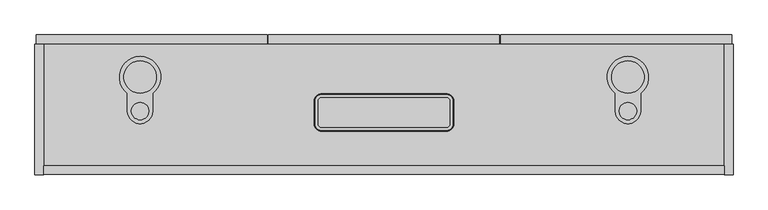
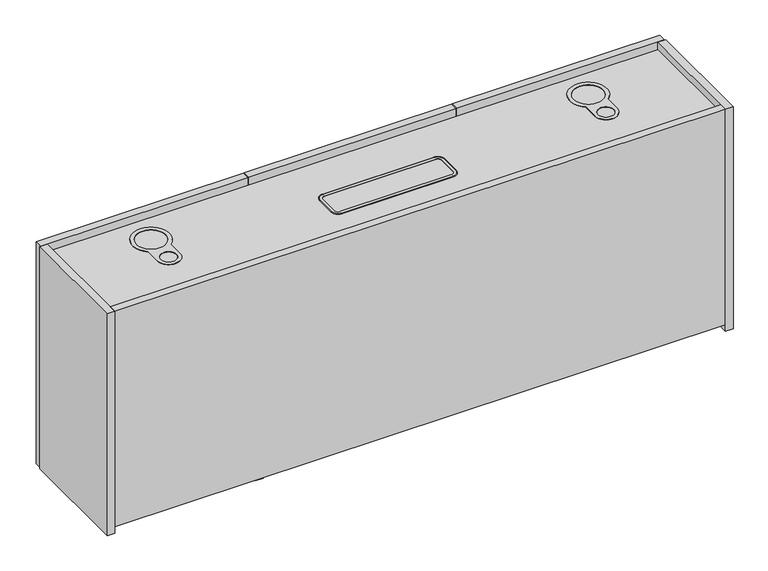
"""IFC4 building model written with IfcOpenShell, lengths in millimetres: furniture geometry, Geiger_GeigerOneCasegoods_UtilityCabinetForUseWithCredenzaDeskAccepts2Legs : Vertical Veneer 60Wx 12Dx 22.5H."""

from ifc_helpers import new_model, si_unit, point, frame, origin, place, context, project, spatial, polyline, circle_curve, ellipse_curve, trimmed, outline, extrude, faceted_brep, source, transform, mapped, element, save
from ifc_brep_helpers import plane_surface, cylinder_surface, revolved_surface, advanced_brep


def furniture_dcbf375a(model_context):
    return source(origin(), model_context, "Body", "SolidModel", [
        faceted_brep([(1505.0, 19.5, 584.2), (1505.0, 0.5, 584.2), (1505.0, 0.5, 29.0), (1505.0, 19.5, 29.0), (1505.0, 284.3, 156.0), (1505.0, 265.3, 156.0), (1505.0, 265.3, 29.0), (1505.0, 284.3, 29.0), (19.0, 19.5, 584.2), (19.0, 19.5, 29.0), (19.0, 0.5, 29.0), (19.0, 0.5, 584.2), (19.0, 284.3, 156.0), (19.0, 284.3, 29.0), (19.0, 265.3, 29.0), (19.0, 265.3, 156.0), (390.75, 19.5, 29.0), (390.75, 19.5, 546.2), (371.75, 19.5, 546.2), (371.75, 19.5, 29.0), (390.75, 284.3, 29.0), (390.75, 284.3, 156.0), (371.75, 284.3, 156.0), (371.75, 284.3, 29.0), (371.75, 265.3, 29.0), (390.75, 265.3, 29.0), (371.75, 265.3, 156.0), (390.75, 265.3, 156.0), (371.75, 284.8, 12.7), (371.75, 19.5, 12.7), (371.75, 284.8, 546.2), (390.75, 284.8, 12.7), (390.75, 284.8, 546.2), (390.75, 19.5, 12.7)], [[[0, 1, 2, 3]], [[4, 5, 6, 7]], [[8, 9, 10, 11]], [[12, 13, 14, 15]], [[3, 16, 17, 18, 19, 9, 8, 0]], [[2, 10, 9, 19, 16, 3]], [[1, 11, 10, 2]], [[0, 8, 11, 1]], [[7, 20, 21, 4]], [[12, 22, 23, 13]], [[13, 23, 24, 14]], [[6, 25, 20, 7]], [[14, 24, 26, 15]], [[5, 27, 25, 6]], [[4, 21, 27, 5]], [[15, 26, 22, 12]], [[28, 29, 19, 18, 30], [22, 26, 24, 23]], [[31, 32, 17, 16, 33], [20, 25, 27, 21]], [[30, 32, 31, 28]], [[18, 17, 32, 30]], [[33, 16, 19, 29]], [[28, 31, 33, 29]]]),
        extrude(outline(polyline([(1505.0, 19.5), (19.0, 19.5), (19.0, 284.8), (1505.0, 284.8), (1505.0, 19.5)])), frame((0.0, 0.0, 546.2), z_axis=(0.0, 0.0, 1.0), x_axis=(1.0, 0.0, 0.0)), (0.0, 0.0, 1.0), 19.0),
        extrude(outline(polyline([(506.8, 304.8), (506.8, 285.8), (3.0, 285.8), (3.0, 304.8), (506.8, 304.8)])), frame((0.0, 0.0, 12.7), z_axis=(0.0, 0.0, 1.0), x_axis=(1.0, 0.0, 0.0)), (0.0, 0.0, 1.0), 571.5),
        extrude(outline(polyline([(1521.0, 304.8), (1521.0, 285.8), (1016.6, 285.8), (1016.6, 304.8), (1521.0, 304.8)])), frame((0.0, 0.0, 12.7), z_axis=(0.0, 0.0, 1.0), x_axis=(1.0, 0.0, 0.0)), (0.0, 0.0, 1.0), 571.5),
        extrude(outline(polyline([(1013.6, 304.8), (1013.6, 285.8), (509.8, 285.8), (509.8, 304.8), (1013.6, 304.8)])), frame((0.0, 0.0, 12.7), z_axis=(0.0, 0.0, 1.0), x_axis=(1.0, 0.0, 0.0)), (0.0, 0.0, 1.0), 571.5),
        extrude(outline(polyline([(19.0, 284.8), (19.0, 0.0), (0.0, 0.0), (0.0, 284.8), (19.0, 284.8)])), frame((0.0, 0.0, 12.7), z_axis=(0.0, 0.0, 1.0), x_axis=(1.0, 0.0, 0.0)), (0.0, 0.0, 1.0), 571.5),
        extrude(outline(polyline([(1524.0, 284.8), (1524.0, 0.0), (1505.0, 0.0), (1505.0, 284.8), (1524.0, 284.8)])), frame((0.0, 0.0, 12.7), z_axis=(0.0, 0.0, 1.0), x_axis=(1.0, 0.0, 0.0)), (0.0, 0.0, 1.0), 571.5),
        advanced_brep(
        [(610.7203563, 110.825, 566.7), (609.4922964, 110.825, 565.2), (625.9, 94.4172964, 565.2), (625.9, 95.6453563, 566.7), (610.7203563, 160.025, 566.7), (609.4922964, 160.025, 565.2), (625.9, 175.2046437, 566.7), (625.9, 176.4327036, 565.2), (898.1, 175.2046437, 566.7), (898.1, 176.4327036, 565.2), (913.2796437, 160.025, 566.7), (914.5077036, 160.025, 565.2), (913.2796437, 110.825, 566.7), (914.5077036, 110.825, 565.2), (898.1, 95.6453563, 566.7), (898.1, 94.4172964, 565.2), (625.9, 102.925, 566.7), (618.0, 110.825, 566.7), (618.0, 160.025, 566.7), (625.9, 167.925, 566.7), (898.1, 167.925, 566.7), (906.0, 160.025, 566.7), (906.0, 110.825, 566.7), (898.1, 102.925, 566.7), (625.9, 102.925, 566.001635), (618.0, 110.825, 566.001635), (618.0, 160.025, 566.001635), (625.9, 167.925, 566.001635), (898.1, 167.925, 566.001635), (906.0, 160.025, 566.001635), (906.0, 110.825, 566.001635), (898.1, 102.925, 566.001635)],
        [
            (0, 1, circle_curve(frame((610.7203563, 110.825, 565.4472896), z_axis=(0.0, -1.0, 0.0), x_axis=(1.0, 0.0, 0.0)), 1.2527104)),
            (1, 2, circle_curve(frame((625.9, 110.825, 565.2), z_axis=(0.0, 0.0, 1.0), x_axis=(0.0, -1.0, 0.0)), 16.4077036)),
            (2, 3, circle_curve(frame((625.9, 95.6453563, 565.4472896), z_axis=(-1.0, 0.0, 0.0), x_axis=(0.0, 1.0, 0.0)), 1.2527104)),
            (3, 0, circle_curve(frame((625.9, 110.825, 566.7), z_axis=(0.0, 0.0, -1.0), x_axis=(0.0, -1.0, 0.0)), 15.1796437)),
            (0, 4),
            (4, 5, circle_curve(frame((610.7203563, 160.025, 565.4472896), z_axis=(0.0, -1.0, 0.0), x_axis=(1.0, 0.0, 0.0)), 1.2527104)),
            (5, 1),
            (4, 6, circle_curve(frame((625.9, 160.025, 566.7), z_axis=(0.0, 0.0, -1.0), x_axis=(-1.0, 0.0, 0.0)), 15.1796437)),
            (6, 7, circle_curve(frame((625.9, 175.2046437, 565.4472896), z_axis=(-1.0, 0.0, 0.0), x_axis=(0.0, -1.0, 0.0)), 1.2527104)),
            (7, 5, circle_curve(frame((625.9, 160.025, 565.2), z_axis=(0.0, 0.0, 1.0), x_axis=(-1.0, 0.0, 0.0)), 16.4077036)),
            (6, 8),
            (8, 9, circle_curve(frame((898.1, 175.2046437, 565.4472896), z_axis=(-1.0, 0.0, 0.0), x_axis=(0.0, -1.0, 0.0)), 1.2527104)),
            (9, 7),
            (8, 10, circle_curve(frame((898.1, 160.025, 566.7), z_axis=(0.0, 0.0, -1.0), x_axis=(0.0, 1.0, 0.0)), 15.1796437)),
            (10, 11, circle_curve(frame((913.2796437, 160.025, 565.4472896), z_axis=(0.0, 1.0, 0.0), x_axis=(-1.0, 0.0, 0.0)), 1.2527104)),
            (11, 9, circle_curve(frame((898.1, 160.025, 565.2), z_axis=(0.0, 0.0, 1.0), x_axis=(0.0, 1.0, 0.0)), 16.4077036)),
            (10, 12),
            (12, 13, circle_curve(frame((913.2796437, 110.825, 565.4472896), z_axis=(0.0, 1.0, 0.0), x_axis=(-1.0, 0.0, 0.0)), 1.2527104)),
            (13, 11),
            (12, 14, circle_curve(frame((898.1, 110.825, 566.7), z_axis=(0.0, 0.0, -1.0), x_axis=(1.0, 0.0, 0.0)), 15.1796437)),
            (14, 15, circle_curve(frame((898.1, 95.6453563, 565.4472896), z_axis=(1.0, 0.0, 0.0), x_axis=(0.0, 1.0, 0.0)), 1.2527104)),
            (15, 13, circle_curve(frame((898.1, 110.825, 565.2), z_axis=(0.0, 0.0, 1.0), x_axis=(1.0, 0.0, 0.0)), 16.4077036)),
            (2, 15),
            (14, 3),
            (16, 17, circle_curve(frame((625.9, 110.825, 566.7), z_axis=(0.0, 0.0, -1.0), x_axis=(0.0, -1.0, 0.0)), 7.9)),
            (17, 18),
            (18, 19, circle_curve(frame((625.9, 160.025, 566.7), z_axis=(0.0, 0.0, -1.0), x_axis=(-1.0, 0.0, 0.0)), 7.9)),
            (19, 20),
            (20, 21, circle_curve(frame((898.1, 160.025, 566.7), z_axis=(0.0, 0.0, -1.0), x_axis=(0.0, 1.0, 0.0)), 7.9)),
            (21, 22),
            (22, 23, circle_curve(frame((898.1, 110.825, 566.7), z_axis=(0.0, 0.0, -1.0), x_axis=(1.0, 0.0, 0.0)), 7.9)),
            (23, 16),
            (16, 24),
            (24, 25, circle_curve(frame((625.9, 110.825, 566.001635), z_axis=(0.0, 0.0, -1.0), x_axis=(0.0, -1.0, 0.0)), 7.9)),
            (25, 17),
            (25, 26),
            (26, 18),
            (26, 27, circle_curve(frame((625.9, 160.025, 566.001635), z_axis=(0.0, 0.0, -1.0), x_axis=(-1.0, 0.0, 0.0)), 7.9)),
            (27, 19),
            (27, 28),
            (28, 20),
            (28, 29, circle_curve(frame((898.1, 160.025, 566.001635), z_axis=(0.0, 0.0, -1.0), x_axis=(0.0, 1.0, 0.0)), 7.9)),
            (29, 21),
            (29, 30),
            (30, 22),
            (30, 31, circle_curve(frame((898.1, 110.825, 566.001635), z_axis=(0.0, 0.0, -1.0), x_axis=(1.0, 0.0, 0.0)), 7.9)),
            (31, 23),
            (31, 24),
        ],
        [
            revolved_surface(trimmed(ellipse_curve(frame((625.9, 95.6453563, 565.4472896), z_axis=(-1.0, 0.0, 0.0), x_axis=(0.0, 1.0, 0.0)), 1.2527104, 1.2527104), [point((625.9, 94.4172964, 565.2))], [point((625.9, 95.6453563, 566.7))], True, "CARTESIAN"), (625.9, 110.825, 565.2), (0.0, 0.0, 1.0)),
            cylinder_surface(frame((610.7203563, 110.825, 565.4472896), z_axis=(0.0, -1.0, 0.0), x_axis=(1.0, 0.0, 0.0)), 1.2527104),
            revolved_surface(trimmed(ellipse_curve(frame((610.7203563, 160.025, 565.4472896), z_axis=(0.0, 1.0, 0.0), x_axis=(1.0, 0.0, 0.0)), 1.2527104, 1.2527104), [point((609.4922964, 160.025, 565.2))], [point((610.7203563, 160.025, 566.7))], True, "CARTESIAN"), (625.9, 160.025, 565.2), (0.0, 0.0, 1.0)),
            cylinder_surface(frame((625.9, 175.2046437, 565.4472896), z_axis=(-1.0, 0.0, 0.0), x_axis=(0.0, -1.0, 0.0)), 1.2527104),
            revolved_surface(trimmed(ellipse_curve(frame((898.1, 175.2046437, 565.4472896), z_axis=(1.0, 0.0, 0.0), x_axis=(0.0, -1.0, 0.0)), 1.2527104, 1.2527104), [point((898.1, 176.4327036, 565.2))], [point((898.1, 175.2046437, 566.7))], True, "CARTESIAN"), (898.1, 160.025, 565.2), (0.0, 0.0, 1.0)),
            cylinder_surface(frame((913.2796437, 160.025, 565.4472896), z_axis=(0.0, 1.0, 0.0), x_axis=(-1.0, 0.0, 0.0)), 1.2527104),
            revolved_surface(trimmed(ellipse_curve(frame((913.2796437, 110.825, 565.4472896), z_axis=(0.0, -1.0, 0.0), x_axis=(-1.0, 0.0, 0.0)), 1.2527104, 1.2527104), [point((914.5077036, 110.825, 565.2))], [point((913.2796437, 110.825, 566.7))], True, "CARTESIAN"), (898.1, 110.825, 565.2), (0.0, 0.0, 1.0)),
            cylinder_surface(frame((898.1, 95.6453563, 565.4472896), z_axis=(1.0, 0.0, 0.0), x_axis=(0.0, 1.0, 0.0)), 1.2527104),
            plane_surface(frame((898.1, 95.6453563, 566.7), z_axis=(0.0, 0.0, 1.0), x_axis=(-1.0, 0.0, 0.0))),
            revolved_surface(polyline([(625.9, 102.925, 566.7), (625.9, 102.925, 566.001635)]), (625.9, 110.825, 565.2), (0.0, 0.0, 1.0)),
            plane_surface(frame((618.0, 110.825, 566.7), z_axis=(1.0, 0.0, 0.0), x_axis=(0.0, 1.0, 0.0))),
            revolved_surface(polyline([(618.0, 160.025, 566.7), (618.0, 160.025, 566.001635)]), (625.9, 160.025, 565.2), (0.0, 0.0, 1.0)),
            plane_surface(frame((625.9, 167.925, 566.7), z_axis=(0.0, -1.0, 0.0), x_axis=(1.0, 0.0, 0.0))),
            revolved_surface(polyline([(898.1, 167.925, 566.7), (898.1, 167.925, 566.001635)]), (898.1, 160.025, 565.2), (0.0, 0.0, 1.0)),
            plane_surface(frame((906.0, 160.025, 566.7), z_axis=(-1.0, 0.0, 0.0), x_axis=(0.0, -1.0, 0.0))),
            revolved_surface(polyline([(906.0, 110.825, 566.7), (906.0, 110.825, 566.001635)]), (898.1, 110.825, 565.2), (0.0, 0.0, 1.0)),
            plane_surface(frame((898.1, 102.925, 566.7), z_axis=(0.0, 1.0, 0.0), x_axis=(-1.0, 0.0, 0.0))),
            plane_surface(frame((898.1, 102.925, 565.2), z_axis=(0.0, 0.0, -1.0), x_axis=(-1.0, 0.0, 0.0))),
            plane_surface(frame((625.9, 102.925, 566.001635), z_axis=(0.0, 0.0, 1.0), x_axis=(-1.0, 0.0, 0.0))),
        ],
        [
            (0, [[1, 2, 3, 4]]),
            (1, [[5, 6, 7, -1]]),
            (2, [[8, 9, 10, -6]]),
            (3, [[11, 12, 13, -9]]),
            (4, [[14, 15, 16, -12]]),
            (5, [[17, 18, 19, -15]]),
            (6, [[20, 21, 22, -18]]),
            (7, [[23, -21, 24, -3]]),
            (8, [[-24, -20, -17, -14, -11, -8, -5, -4], [25, 26, 27, 28, 29, 30, 31, 32]]),
            (9, [[33, 34, 35, -25]]),
            (10, [[-35, 36, 37, -26]]),
            (11, [[-37, 38, 39, -27]]),
            (12, [[-39, 40, 41, -28]]),
            (13, [[-41, 42, 43, -29]]),
            (14, [[-43, 44, 45, -30]]),
            (15, [[-45, 46, 47, -31]]),
            (16, [[-47, 48, -33, -32]]),
            (17, [[-7, -10, -13, -16, -19, -22, -23, -2]]),
            (18, [[-48, -46, -44, -42, -40, -38, -36, -34]]),
        ],
    ),
        advanced_brep(
        [(257.1, 177.1090661, 565.2), (257.1, 138.6393843, 565.2), (202.1, 138.6393843, 565.2), (202.1, 177.1090661, 565.2), (257.1, 177.1090661, 566.8), (202.1, 177.1090661, 566.8), (202.1, 138.6393843, 566.8), (257.1, 138.6393843, 566.8), (229.6, 157.5707393, 566.8), (229.6, 119.7080294, 566.8), (229.6, 248.2790899, 566.8), (229.6, 177.4196387, 566.8), (229.6, 119.7080294, 566.001635), (229.6, 157.5707393, 566.001635), (229.6, 177.4196387, 566.001635), (229.6, 248.2790899, 566.001635)],
        [
            (0, 1),
            (1, 2, circle_curve(frame((229.6, 138.6393843, 565.2), z_axis=(0.0, 0.0, -1.0), x_axis=(0.0, -1.0, 0.0)), 27.5)),
            (2, 3),
            (3, 0, circle_curve(frame((229.6, 212.8493643, 565.2), z_axis=(0.0, 0.0, -1.0), x_axis=(0.0, -1.0, 0.0)), 45.095664)),
            (4, 5, circle_curve(frame((229.6, 212.8493643, 566.8), z_axis=(0.0, 0.0, 1.0), x_axis=(0.0, -1.0, 0.0)), 45.095664)),
            (5, 6),
            (6, 7, circle_curve(frame((229.6, 138.6393843, 566.8), z_axis=(0.0, 0.0, 1.0), x_axis=(0.0, -1.0, 0.0)), 27.5)),
            (7, 4),
            (8, 9, circle_curve(frame((229.6, 138.6393843, 566.8), z_axis=(0.0, 0.0, -1.0), x_axis=(0.0, -1.0, 0.0)), 18.931355)),
            (9, 8, circle_curve(frame((229.6, 138.6393843, 566.8), z_axis=(0.0, 0.0, -1.0), x_axis=(0.0, -1.0, 0.0)), 18.931355)),
            (10, 11, circle_curve(frame((229.6, 212.8493643, 566.8), z_axis=(0.0, 0.0, -1.0), x_axis=(0.0, -1.0, 0.0)), 35.4297256)),
            (11, 10, circle_curve(frame((229.6, 212.8493643, 566.8), z_axis=(0.0, 0.0, -1.0), x_axis=(0.0, -1.0, 0.0)), 35.4297256)),
            (0, 4),
            (7, 1),
            (6, 2),
            (5, 3),
            (9, 12),
            (12, 13, circle_curve(frame((229.6, 138.6393843, 566.001635), z_axis=(0.0, 0.0, -1.0), x_axis=(0.0, -1.0, 0.0)), 18.931355)),
            (13, 8),
            (13, 12, circle_curve(frame((229.6, 138.6393843, 566.001635), z_axis=(0.0, 0.0, -1.0), x_axis=(0.0, -1.0, 0.0)), 18.931355)),
            (11, 14),
            (14, 15, circle_curve(frame((229.6, 212.8493643, 566.001635), z_axis=(0.0, 0.0, -1.0), x_axis=(0.0, -1.0, 0.0)), 35.4297256)),
            (15, 10),
            (15, 14, circle_curve(frame((229.6, 212.8493643, 566.001635), z_axis=(0.0, 0.0, -1.0), x_axis=(0.0, -1.0, 0.0)), 35.4297256)),
        ],
        [
            plane_surface(frame((229.6, 265.3, 565.2), z_axis=(0.0, 0.0, -1.0), x_axis=(-1.0, 0.0, 0.0))),
            plane_surface(frame((229.6, 265.3, 566.8), z_axis=(0.0, 0.0, 1.0), x_axis=(-1.0, 0.0, 0.0))),
            plane_surface(frame((257.1, 138.6393843, 565.2), z_axis=(1.0, 0.0, 0.0), x_axis=(0.0, 0.0, 1.0))),
            cylinder_surface(frame((229.6, 138.6393843, 565.2), z_axis=(0.0, 0.0, -1.0), x_axis=(0.0, -1.0, 0.0)), 27.5),
            plane_surface(frame((202.1, 177.1090661, 565.2), z_axis=(-1.0, 0.0, 0.0), x_axis=(0.0, 0.0, 1.0))),
            cylinder_surface(frame((229.6, 212.8493643, 565.2), z_axis=(0.0, 0.0, -1.0), x_axis=(0.0, -1.0, 0.0)), 45.095664),
            revolved_surface(polyline([(229.6, 119.70802929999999, 566.8), (229.6, 119.70802929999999, 566.001635)]), (229.6, 138.6393843, 565.2), (0.0, 0.0, 1.0)),
            revolved_surface(polyline([(229.6, 177.4196387, 566.8), (229.6, 177.4196387, 566.001635)]), (229.6, 212.8493643, 565.2), (0.0, 0.0, 1.0)),
            plane_surface(frame((210.668645, 138.6393843, 566.001635), z_axis=(0.0, 0.0, 1.0), x_axis=(0.0, 1.0, 0.0))),
        ],
        [
            (0, [[1, 2, 3, 4]]),
            (1, [[5, 6, 7, 8], [9, 10], [11, 12]]),
            (2, [[13, -8, 14, -1]]),
            (3, [[-14, -7, 15, -2]]),
            (4, [[-15, -6, 16, -3]]),
            (5, [[-16, -5, -13, -4]]),
            (6, [[17, 18, 19, -10]]),
            (6, [[-19, 20, -17, -9]]),
            (7, [[21, 22, 23, -12]]),
            (7, [[-23, 24, -21, -11]]),
            (8, [[-20, -18]]),
            (8, [[-24, -22]]),
        ],
    ),
        advanced_brep(
        [(1266.9, 177.1090661, 565.2), (1321.9, 177.1090661, 565.2), (1321.9, 138.6393843, 565.2), (1266.9, 138.6393843, 565.2), (1266.9, 177.1090661, 566.8), (1266.9, 138.6393843, 566.8), (1321.9, 138.6393843, 566.8), (1321.9, 177.1090661, 566.8), (1294.4, 119.7080294, 566.8), (1294.4, 157.5707393, 566.8), (1294.4, 177.4196387, 566.8), (1294.4, 248.2790899, 566.8), (1294.4, 119.7080294, 566.1909845), (1294.4, 157.5707393, 566.1909845), (1294.4, 177.4196387, 566.1909845), (1294.4, 248.2790899, 566.1909845)],
        [
            (0, 1, circle_curve(frame((1294.4, 212.8493643, 565.2), z_axis=(0.0, 0.0, -1.0), x_axis=(0.0, 1.0, 0.0)), 45.095664)),
            (1, 2),
            (2, 3, circle_curve(frame((1294.4, 138.6393843, 565.2), z_axis=(0.0, 0.0, -1.0), x_axis=(0.0, 1.0, 0.0)), 27.5)),
            (3, 0),
            (4, 5),
            (5, 6, circle_curve(frame((1294.4, 138.6393843, 566.8), z_axis=(0.0, 0.0, 1.0), x_axis=(0.0, 1.0, 0.0)), 27.5)),
            (6, 7),
            (7, 4, circle_curve(frame((1294.4, 212.8493643, 566.8), z_axis=(0.0, 0.0, 1.0), x_axis=(0.0, 1.0, 0.0)), 45.095664)),
            (8, 9, circle_curve(frame((1294.4, 138.6393843, 566.8), z_axis=(0.0, 0.0, -1.0), x_axis=(0.0, 1.0, 0.0)), 18.931355)),
            (9, 8, circle_curve(frame((1294.4, 138.6393843, 566.8), z_axis=(0.0, 0.0, -1.0), x_axis=(0.0, 1.0, 0.0)), 18.931355)),
            (10, 11, circle_curve(frame((1294.4, 212.8493643, 566.8), z_axis=(0.0, 0.0, -1.0), x_axis=(0.0, 1.0, 0.0)), 35.4297256)),
            (11, 10, circle_curve(frame((1294.4, 212.8493643, 566.8), z_axis=(0.0, 0.0, -1.0), x_axis=(0.0, 1.0, 0.0)), 35.4297256)),
            (3, 5),
            (4, 0),
            (2, 6),
            (1, 7),
            (8, 12),
            (12, 13, circle_curve(frame((1294.4, 138.6393843, 566.1909845), z_axis=(0.0, 0.0, -1.0), x_axis=(0.0, 1.0, 0.0)), 18.931355)),
            (13, 9),
            (13, 12, circle_curve(frame((1294.4, 138.6393843, 566.1909845), z_axis=(0.0, 0.0, -1.0), x_axis=(0.0, 1.0, 0.0)), 18.931355)),
            (10, 14),
            (14, 15, circle_curve(frame((1294.4, 212.8493643, 566.1909845), z_axis=(0.0, 0.0, -1.0), x_axis=(0.0, 1.0, 0.0)), 35.4297256)),
            (15, 11),
            (15, 14, circle_curve(frame((1294.4, 212.8493643, 566.1909845), z_axis=(0.0, 0.0, -1.0), x_axis=(0.0, 1.0, 0.0)), 35.4297256)),
        ],
        [
            plane_surface(frame((1294.4, 265.3, 565.2), z_axis=(0.0, 0.0, -1.0), x_axis=(1.0, 0.0, 0.0))),
            plane_surface(frame((1294.4, 265.3, 566.8), z_axis=(0.0, 0.0, 1.0), x_axis=(1.0, 0.0, 0.0))),
            plane_surface(frame((1266.9, 177.1090661, 565.2), z_axis=(-1.0, 0.0, 0.0), x_axis=(0.0, 0.0, 1.0))),
            cylinder_surface(frame((1294.4, 138.6393843, 565.2), z_axis=(0.0, 0.0, -1.0), x_axis=(0.0, 1.0, 0.0)), 27.5),
            plane_surface(frame((1321.9, 138.6393843, 565.2), z_axis=(1.0, 0.0, 0.0), x_axis=(0.0, 0.0, 1.0))),
            cylinder_surface(frame((1294.4, 212.8493643, 565.2), z_axis=(0.0, 0.0, -1.0), x_axis=(0.0, 1.0, 0.0)), 45.095664),
            revolved_surface(polyline([(1294.4, 157.57073929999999, 566.8), (1294.4, 157.57073929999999, 566.1909845)]), (1294.4, 138.6393843, 565.2), (0.0, 0.0, 1.0)),
            revolved_surface(polyline([(1294.4, 248.27908989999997, 566.8), (1294.4, 248.27908989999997, 566.1909845)]), (1294.4, 212.8493643, 565.2), (0.0, 0.0, 1.0)),
            plane_surface(frame((1275.468645, 138.6393843, 566.1909845), z_axis=(0.0, 0.0, 1.0), x_axis=(0.0, 1.0, 0.0))),
        ],
        [
            (0, [[1, 2, 3, 4]]),
            (1, [[5, 6, 7, 8], [9, 10], [11, 12]]),
            (2, [[13, -5, 14, -4]]),
            (3, [[15, -6, -13, -3]]),
            (4, [[16, -7, -15, -2]]),
            (5, [[-14, -8, -16, -1]]),
            (6, [[17, 18, 19, -9]]),
            (6, [[-19, 20, -17, -10]]),
            (7, [[21, 22, 23, -11]]),
            (7, [[-23, 24, -21, -12]]),
            (8, [[-20, -18]]),
            (8, [[-24, -22]]),
        ],
    ),
    ])


if __name__ == "__main__":
    model = new_model("IFC4")
    model_context = context("Model", 3, world=origin())
    ifc_project = project(units=[si_unit("LENGTHUNIT", "METRE", prefix="MILLI")], contexts=[model_context])
    site = spatial("IfcSite", under=ifc_project)
    building = spatial("IfcBuilding", under=site)
    placement = place(None, origin())
    furniture_shape = furniture_dcbf375a(model_context)
    element("IfcFurniture", 1, ObjectType="Geiger_GeigerOneCasegoods_UtilityCabinetForUseWithCredenzaDeskAccepts2Legs : Vertical Veneer 60Wx 12Dx 22.5H", at=placement, inside=building, context=model_context, shape_type="MappedRepresentation", body=[
        mapped(furniture_shape, transform((0.0, 0.0, 0.0), x_axis=(1.0, 0.0, 0.0), y_axis=(0.0, 1.0, 0.0), z_axis=(0.0, 0.0, 1.0))),
    ])
    save(model, "model.ifc")
